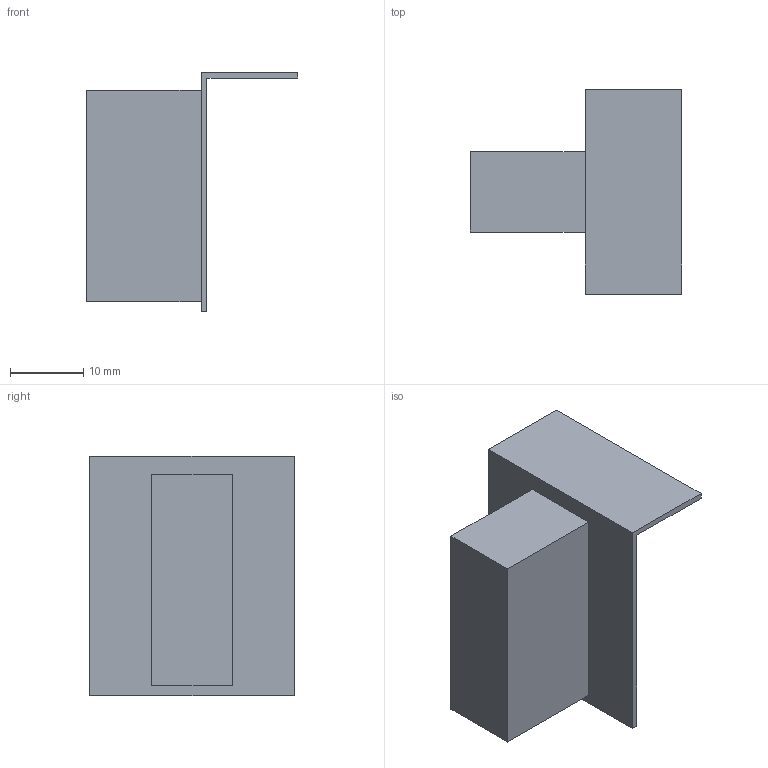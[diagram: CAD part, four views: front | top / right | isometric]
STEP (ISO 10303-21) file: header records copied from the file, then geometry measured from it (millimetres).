
FILE_DESCRIPTION (( 'STEP AP203' ), '1' );
FILE_NAME ('KU-Modell_Unterteilungshalter-Vionaro-Aluminium_Rechts .step', '2018-03-01T15:23:52', ( 'Windows-Benutzer' ), ( '' ), 'SwSTEP 2.0', 'SolidWorks 2017', '' );
FILE_SCHEMA (( 'CONFIG_CONTROL_DESIGN' ));
Length unit declared in the file: millimetre
Products named in the file (1): KU-Modell_Unterteilungshalter-Vionaro-Aluminium_Rechts 
Bounding box: 28.9 x 28 x 32.8 mm (x, y, z)
Volume: 6020.8 mm3; surface area: 3904.3 mm2
Topology: 1 solids, 1 shells, 13 faces, 30 edges, 20 vertices
Faces by surface type: plane 13
Entity records: 441 total; most frequent: CARTESIAN_POINT 64, ORIENTED_EDGE 60, DIRECTION 58, VECTOR 30, LINE 30, EDGE_CURVE 30, VERTEX_POINT 20, AXIS2_PLACEMENT_3D 14
